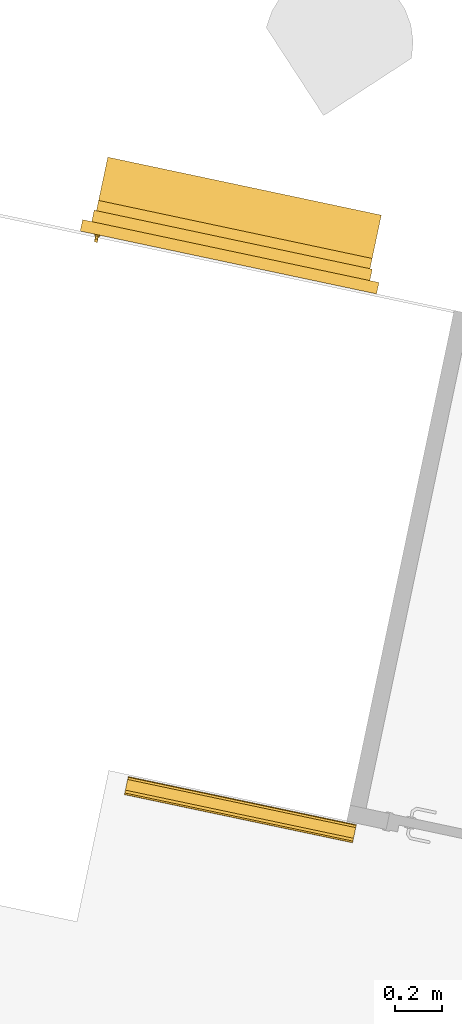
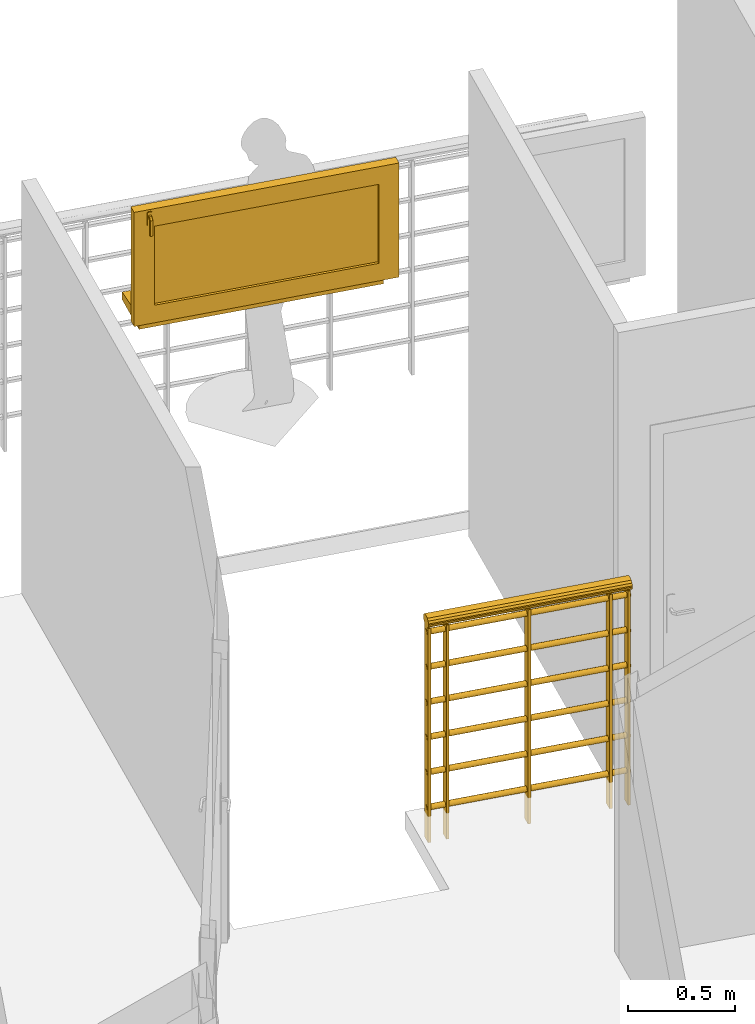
# One storey, part 13 of 18: 1 railing, 1 window.
"""IFC2X3 building model written with IfcOpenShell, lengths in metres."""

from ifc_helpers import new_model, entity, si_unit, converted_unit, derived_unit, direction, frame, frame_2d, origin, origin_2d_with_axis, place, context, subcontext, project, spatial, polyline, rectangle, circle, outline, extrude, faceted_brep, source, transform, mapped, material, material_list, type_object, type_shapes, element, save


model = new_model("IFC2X3")

# Units and contexts
model_context = context("Model", 3, precision=1e-05, world=origin(), true_north=direction((6.12303176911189e-17, 1.0)))
body_context = subcontext(model_context, "Body", "Model", "MODEL_VIEW")
ifc_project = project(units=[si_unit("LENGTHUNIT", "METRE"), si_unit("AREAUNIT", "SQUARE_METRE"), si_unit("VOLUMEUNIT", "CUBIC_METRE"), converted_unit("PLANEANGLEUNIT", "DEGREE", entity("IfcRatioMeasure", 0.0174532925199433), si_unit("PLANEANGLEUNIT", "RADIAN"), dimensions=[0, 0, 0, 0, 0, 0, 0]), si_unit("MASSUNIT", "GRAM", prefix="KILO"), derived_unit("MASSDENSITYUNIT", [(si_unit("MASSUNIT", "GRAM", prefix="KILO"), 1), (si_unit("LENGTHUNIT", "METRE"), -3)]), si_unit("TIMEUNIT", "SECOND"), si_unit("FREQUENCYUNIT", "HERTZ"), si_unit("THERMODYNAMICTEMPERATUREUNIT", "DEGREE_CELSIUS"), derived_unit("THERMALTRANSMITTANCEUNIT", [(si_unit("MASSUNIT", "GRAM", prefix="KILO"), 1), (si_unit("THERMODYNAMICTEMPERATUREUNIT", "KELVIN"), -1), (si_unit("TIMEUNIT", "SECOND"), -3)]), derived_unit("VOLUMETRICFLOWRATEUNIT", [(si_unit("LENGTHUNIT", "METRE"), 3), (si_unit("TIMEUNIT", "SECOND"), -1)]), si_unit("ELECTRICCURRENTUNIT", "AMPERE"), si_unit("ELECTRICVOLTAGEUNIT", "VOLT"), si_unit("POWERUNIT", "WATT"), si_unit("FORCEUNIT", "NEWTON", prefix="KILO"), si_unit("ILLUMINANCEUNIT", "LUX"), si_unit("LUMINOUSFLUXUNIT", "LUMEN"), si_unit("LUMINOUSINTENSITYUNIT", "CANDELA"), derived_unit("USERDEFINED", [(si_unit("MASSUNIT", "GRAM", prefix="KILO"), -1), (si_unit("LENGTHUNIT", "METRE"), -2), (si_unit("TIMEUNIT", "SECOND"), 3), (si_unit("LUMINOUSFLUXUNIT", "LUMEN"), 1)]), derived_unit("LINEARVELOCITYUNIT", [(si_unit("LENGTHUNIT", "METRE"), 1), (si_unit("TIMEUNIT", "SECOND"), -1)]), si_unit("PRESSUREUNIT", "PASCAL"), derived_unit("USERDEFINED", [(si_unit("LENGTHUNIT", "METRE"), -2), (si_unit("MASSUNIT", "GRAM", prefix="KILO"), 1), (si_unit("TIMEUNIT", "SECOND"), -2)])], contexts=[model_context])

# Site, building, storey
site_placement = place(None, origin())
site = spatial("IfcSite", under=ifc_project, at=site_placement, Name="Default", CompositionType="ELEMENT")
building_placement = place(site_placement, origin())
building = spatial("IfcBuilding", under=site, at=building_placement, CompositionType="ELEMENT")
storey_placement = place(building_placement, frame((0.0, 0.0, 2.8)))
storey = spatial("IfcBuildingStorey", under=building, at=storey_placement, Name="ETAGE", CompositionType="ELEMENT", Elevation=2.8)

# Window
ifc_material_1 = material(Name="Fenêtre - Poignée")
ifc_material_2 = material(Name="Fenêtre - Appui")
ifc_material_3 = material(Name="PVC - Blanc")
ifc_material_4 = material(Name="Fenêtre - Cadre")
ifc_material_5 = material(Name="Fenêtre - Vitrage")
ifc_material_list_1 = material_list([ifc_material_1, ifc_material_2, ifc_material_3, ifc_material_4, ifc_material_5])
ifc_material_list_2 = material_list([ifc_material_1, ifc_material_2, ifc_material_3, ifc_material_4, ifc_material_5])
window_style = type_object("IfcWindowStyle", Name="1.20 X 0.60 HT Appui Béton 3", ConstructionType="NOTDEFINED", OperationType="SINGLE_PANEL", ParameterTakesPrecedence=False, Sizeable=False, material=ifc_material_list_2)
shared_shape = source(origin(), body_context, "Body", "Brep", [
    faceted_brep([(0.0806460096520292, 0.333999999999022, 0.702033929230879), (0.0820339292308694, 0.333999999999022, 0.700646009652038), (0.0820339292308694, 0.333999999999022, 0.689332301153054), (0.0806676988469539, 0.333999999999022, 0.687966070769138), (0.0693323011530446, 0.333999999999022, 0.687966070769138), (0.067966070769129, 0.333999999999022, 0.689332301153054), (0.067966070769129, 0.333999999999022, 0.700646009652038), (0.069353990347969, 0.333999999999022, 0.702033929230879), (0.0806460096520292, 0.321086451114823, 0.702033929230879), (0.0820339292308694, 0.321661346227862, 0.700646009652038), (0.0820339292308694, 0.308353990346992, 0.687338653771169), (0.0820339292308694, 0.308353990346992, 0.600000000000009), (0.0820339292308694, 0.319667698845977, 0.600000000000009), (0.0820339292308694, 0.319667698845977, 0.682652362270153), (0.0820339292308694, 0.326347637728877, 0.689332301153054), (0.0806676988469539, 0.326913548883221, 0.687966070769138), (0.0693323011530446, 0.326913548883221, 0.687966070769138), (0.067966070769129, 0.326347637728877, 0.689332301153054), (0.067966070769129, 0.319667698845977, 0.682652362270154), (0.067966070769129, 0.319667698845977, 0.600000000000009), (0.067966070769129, 0.308353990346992, 0.600000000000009), (0.067966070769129, 0.308353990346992, 0.687338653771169), (0.067966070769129, 0.321661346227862, 0.700646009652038), (0.069353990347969, 0.321086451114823, 0.702033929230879), (0.0806460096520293, 0.306966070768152, 0.687913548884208), (0.0806676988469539, 0.321033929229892, 0.68208645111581), (0.0693323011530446, 0.321033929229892, 0.68208645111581), (0.069353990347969, 0.306966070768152, 0.687913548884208), (0.0806460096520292, 0.306966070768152, 0.600000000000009), (0.069353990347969, 0.306966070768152, 0.600000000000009), (0.0693323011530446, 0.321033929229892, 0.600000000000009), (0.0806676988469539, 0.321033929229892, 0.600000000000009)], [[[0, 1, 2, 3, 4, 5, 6, 7]], [[1, 0, 8, 9]], [[2, 1, 9, 10, 11, 12, 13, 14]], [[3, 2, 14, 15]], [[4, 3, 15, 16]], [[5, 4, 16, 17]], [[6, 5, 17, 18, 19, 20, 21, 22]], [[7, 6, 22, 23]], [[0, 7, 23, 8]], [[9, 8, 24, 10]], [[15, 14, 13, 25]], [[16, 15, 25, 26]], [[17, 16, 26, 18]], [[23, 22, 21, 27]], [[8, 23, 27, 24]], [[28, 29, 20, 19, 30, 31, 12, 11]], [[10, 24, 28, 11]], [[25, 13, 12, 31]], [[26, 25, 31, 30]], [[18, 26, 30, 19]], [[27, 21, 20, 29]], [[24, 27, 29, 28]]]),
    faceted_brep([(0.0820000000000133, 0.334000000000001, 0.720000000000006), (0.0679999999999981, 0.334000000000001, 0.720000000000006), (0.0629999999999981, 0.334000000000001, 0.715000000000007), (0.0629999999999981, 0.334000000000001, 0.644999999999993), (0.0679999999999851, 0.334000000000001, 0.640000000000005), (0.0820000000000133, 0.334000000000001, 0.640000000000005), (0.0869999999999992, 0.334000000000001, 0.644999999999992), (0.0869999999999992, 0.334000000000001, 0.715000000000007), (0.0820000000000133, 0.340000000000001, 0.720000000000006), (0.0869999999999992, 0.340000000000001, 0.715000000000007), (0.0869999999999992, 0.340000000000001, 0.644999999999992), (0.0820000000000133, 0.340000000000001, 0.640000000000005), (0.0679999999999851, 0.340000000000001, 0.640000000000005), (0.0629999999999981, 0.340000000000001, 0.644999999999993), (0.0629999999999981, 0.340000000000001, 0.715000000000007), (0.0679999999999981, 0.340000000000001, 0.720000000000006)], [[[0, 1, 2, 3, 4, 5, 6, 7]], [[8, 9, 10, 11, 12, 13, 14, 15]], [[1, 0, 8, 15]], [[2, 1, 15, 14]], [[3, 2, 14, 13]], [[4, 3, 13, 12]], [[5, 4, 12, 11]], [[6, 5, 11, 10]], [[7, 6, 10, 9]], [[0, 7, 9, 8]]]),
    faceted_brep([(0.0499999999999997, 0.420000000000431, 0.0799999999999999), (0.0499999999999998, 0.470000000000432, 0.0799999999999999), (0.0499999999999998, 0.470000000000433, 0.0650000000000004), (0.0500000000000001, 0.675000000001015, 0.0434536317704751), (0.0500000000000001, 0.675000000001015, 0.0), (0.0499999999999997, 0.420000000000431, 0.0), (1.25, 0.42000000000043, 0.0799999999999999), (1.25, 0.42000000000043, 0.0), (1.25, 0.675000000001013, 0.0), (1.25, 0.675000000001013, 0.0434536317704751), (1.25, 0.470000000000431, 0.0650000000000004), (1.25, 0.47000000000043, 0.0799999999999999)], [[[0, 1, 2, 3, 4, 5]], [[6, 7, 8, 9, 10, 11]], [[1, 0, 6, 11]], [[2, 1, 11, 10]], [[3, 2, 10, 9]], [[4, 3, 9, 8]], [[5, 4, 8, 7]], [[0, 5, 7, 6]]]),
    faceted_brep([(0.0999999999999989, 0.379999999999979, 0.18), (0.0999999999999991, 0.339999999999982, 0.18), (1.2, 0.339999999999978, 0.18), (1.2, 0.379999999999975, 0.18), (0.0499999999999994, 0.339999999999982, 0.13), (0.0499999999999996, 0.379999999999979, 0.13), (1.25, 0.379999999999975, 0.13), (1.25, 0.339999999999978, 0.13), (1.2, 0.339999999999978, 0.629999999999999), (1.2, 0.379999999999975, 0.63), (1.25, 0.379999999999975, 0.679999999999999), (1.25, 0.339999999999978, 0.679999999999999), (0.0999999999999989, 0.339999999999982, 0.629999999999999), (0.0999999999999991, 0.379999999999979, 0.629999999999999), (0.0499999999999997, 0.379999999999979, 0.679999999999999), (0.0499999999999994, 0.339999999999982, 0.679999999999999)], [[[0, 1, 2, 3]], [[4, 5, 6, 7]], [[3, 2, 8, 9]], [[7, 6, 10, 11]], [[9, 8, 12, 13]], [[11, 10, 14, 15]], [[13, 12, 1, 0]], [[3, 9, 13, 0], [5, 14, 10, 6]], [[15, 14, 5, 4]], [[7, 11, 15, 4], [1, 12, 8, 2]]], outer=[[True], [True], [True], [True], [True], [True], [True], [False, True], [True], [True, False]]),
    faceted_brep([(0.0, 0.340000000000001, 0.0799999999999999), (0.0, 0.39, 0.0799999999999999), (0.0499999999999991, 0.39, 0.0799999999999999), (0.0499999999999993, 0.474999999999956, 0.0799999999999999), (1.25, 0.474999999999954, 0.0800000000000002), (1.25, 0.39, 0.0799999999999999), (1.3, 0.39, 0.0799999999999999), (1.3, 0.340000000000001, 0.0799999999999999), (0.0649999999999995, 0.39, 0.664999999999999), (0.0649999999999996, 0.39, 0.145), (1.235, 0.39, 0.145), (1.235, 0.39, 0.664999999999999), (0.0, 0.39, 0.729999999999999), (1.3, 0.39, 0.729999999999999), (1.25, 0.39, 0.119376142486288), (0.0499999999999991, 0.39, 0.119376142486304), (0.0649999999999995, 0.38, 0.664999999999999), (0.0649999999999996, 0.38, 0.145), (1.25, 0.38, 0.679999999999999), (0.0499999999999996, 0.38, 0.679999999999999), (0.0499999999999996, 0.38, 0.13), (1.25, 0.38, 0.13), (1.235, 0.38, 0.664999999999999), (1.235, 0.38, 0.145), (0.0499999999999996, 0.340000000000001, 0.679999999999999), (0.0499999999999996, 0.340000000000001, 0.13), (1.3, 0.340000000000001, 0.729999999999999), (0.0, 0.340000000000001, 0.729999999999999), (1.25, 0.340000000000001, 0.679999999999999), (1.25, 0.34, 0.13), (0.0499999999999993, 0.484999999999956, 0.0939209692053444), (0.0499999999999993, 0.484999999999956, 0.0749999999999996), (0.0499999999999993, 0.474999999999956, 0.0749999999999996), (1.25, 0.474999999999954, 0.0749999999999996), (1.25, 0.484999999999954, 0.0749999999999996), (1.25, 0.484999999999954, 0.0939209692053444)], [[[0, 1, 2, 3, 4, 5, 6, 7]], [[8, 9, 10, 11], [1, 12, 13, 6, 5, 14, 15, 2]], [[8, 16, 17, 9]], [[18, 19, 20, 21], [16, 22, 23, 17]], [[20, 19, 24, 25]], [[0, 7, 26, 27], [28, 29, 25, 24]], [[1, 0, 27, 12]], [[8, 11, 22, 16]], [[19, 18, 28, 24]], [[13, 12, 27, 26]], [[22, 11, 10, 23]], [[28, 18, 21, 29]], [[6, 13, 26, 7]], [[15, 30, 31, 32, 3, 2]], [[4, 33, 34, 35, 14, 5]], [[25, 29, 21, 20]], [[17, 23, 10, 9]], [[30, 15, 14, 35]], [[31, 30, 35, 34]], [[32, 31, 34, 33]], [[3, 32, 33, 4]]], outer=[[True], [False, True], [True], [True, False], [True], [True, False], [True], [True], [True], [True], [True], [True], [True], [True], [True], [True], [True], [True], [True], [True], [True]]),
    faceted_brep([(0.0499999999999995, 0.440000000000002, 0.0799999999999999), (0.0499999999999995, 0.39, 0.0799999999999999), (0.039999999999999, 0.39, 0.0799999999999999), (0.039999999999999, 0.440000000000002, 0.0799999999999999), (0.0499999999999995, 0.440000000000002, 0.679999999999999), (0.0499999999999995, 0.39, 0.679999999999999), (1.25, 0.39, 0.679999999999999), (1.25, 0.39, 0.0800000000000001), (1.26, 0.39, 0.0799999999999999), (1.26, 0.39, 0.69), (0.039999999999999, 0.39, 0.69), (0.039999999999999, 0.440000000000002, 0.69), (1.26, 0.440000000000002, 0.69), (1.26, 0.440000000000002, 0.0800000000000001), (1.25, 0.440000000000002, 0.0799999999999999), (1.25, 0.440000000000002, 0.679999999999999)], [[[0, 1, 2, 3]], [[1, 0, 4, 5]], [[2, 1, 5, 6, 7, 8, 9, 10]], [[3, 2, 10, 11]], [[0, 3, 11, 12, 13, 14, 15, 4]], [[5, 4, 15, 6]], [[11, 10, 9, 12]], [[14, 13, 8, 7]], [[6, 15, 14, 7]], [[12, 9, 8, 13]]]),
    faceted_brep([(0.099999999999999, 0.365999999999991, 0.18), (0.099999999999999, 0.365999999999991, 0.629999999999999), (1.2, 0.365999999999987, 0.629999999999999), (1.2, 0.365999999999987, 0.18), (0.0999999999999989, 0.353999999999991, 0.18), (1.2, 0.353999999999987, 0.18), (1.2, 0.353999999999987, 0.629999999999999), (0.0999999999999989, 0.353999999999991, 0.629999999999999)], [[[0, 1, 2, 3]], [[4, 5, 6, 7]], [[1, 0, 4, 7]], [[2, 1, 7, 6]], [[3, 2, 6, 5]], [[0, 3, 5, 4]]]),
])
type_shapes(window_style, [shared_shape])
window_placement = place(storey_placement, frame((-13.317930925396, 85.2299180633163, 1.47), z_axis=(0.0, 0.0, 1.0), x_axis=(0.978238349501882, -0.207484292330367, 0.0)))
element("IfcWindow", 1, at=window_placement, inside=storey, type_object=window_style, material=ifc_material_list_1, Name="1 Vantail - Droit:1.20 X 0.60 HT Appui Béton 3", ObjectType="1 Vantail - Droit:1.20 X 0.60 HT Appui Béton 3", OverallHeight=1.08, OverallWidth=1.3, context=body_context, shape_type="MappedRepresentation", body=[
    mapped(shared_shape, transform((0.0, 0.0, 0.0), scale=1.0)),
])

# Railing
ifc_material_6 = material(Name="noir acier")
ifc_material_7 = material(Name="Finition Peinture Grise")
ifc_material_list_3 = material_list([ifc_material_6, ifc_material_7])
railing_placement = place(storey_placement, origin())
element("IfcRailing", 2, at=railing_placement, inside=storey, material=ifc_material_list_3, Name="Garde-corps:Type Bateau 1,25 m", ObjectType="Garde-corps:Type Bateau 1,25 m", PredefinedType="NOTDEFINED", context=body_context, shape_type="SweptSolid", body=[
    extrude(rectangle(XDim=0.0500000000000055, YDim=0.0140000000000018, at=frame_2d((4.47558656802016e-16, -2.11939840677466e-15), x_axis=(1.0, 0.0))), frame((-12.9523089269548, 83.1626271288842, 0.0), z_axis=(0.0, 0.0, 1.0), x_axis=(-0.206544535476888, -0.978437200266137, 0.0)), (0.0, 0.0, 1.0), 1.21984653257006),
    extrude(rectangle(XDim=0.0500000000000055, YDim=0.0140000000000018, at=origin_2d_with_axis()), frame((-12.5609340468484, 83.0800093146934, 0.0), z_axis=(0.0, 0.0, 1.0), x_axis=(-0.206544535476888, -0.978437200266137, 0.0)), (0.0, 0.0, 1.0), 1.21984653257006),
    extrude(rectangle(XDim=0.0500000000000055, YDim=0.0140000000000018, at=origin_2d_with_axis()), frame((-12.1695591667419, 82.9973915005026, 0.0), z_axis=(0.0, 0.0, 1.0), x_axis=(-0.206544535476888, -0.978437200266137, 0.0)), (0.0, 0.0, 1.0), 1.21984653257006),
    extrude(rectangle(XDim=0.0500000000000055, YDim=0.0140000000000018, at=frame_2d((4.47558656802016e-16, -2.11939840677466e-15), x_axis=(1.0, 0.0))), frame((-13.0407737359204, 83.1813017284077, 0.0), z_axis=(0.0, 0.0, 1.0), x_axis=(-0.206544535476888, -0.978437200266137, 0.0)), (0.0, 0.0, 1.0), 1.21984653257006),
    extrude(rectangle(XDim=0.0500000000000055, YDim=0.0140000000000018, at=origin_2d_with_axis()), frame((-12.0810943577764, 82.9787169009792, 0.0), z_axis=(0.0, 0.0, 1.0), x_axis=(-0.206544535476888, -0.978437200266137, 0.0)), (0.0, 0.0, 1.0), 1.21984653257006),
    extrude(outline(polyline([(-0.0109067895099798, -0.0384843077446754), (0.00177588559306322, -0.0384843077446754), (0.0141514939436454, -0.0318300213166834), (0.0240801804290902, -0.0196720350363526), (0.0298451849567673, -0.00411257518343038), (0.0304496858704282, 0.0121579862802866), (0.0257891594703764, 0.0263263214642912), (0.0166694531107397, 0.0359425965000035), (0.0109067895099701, 0.0384843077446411), (-0.00177588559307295, 0.0384843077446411), (-0.0141514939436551, 0.0318300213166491), (-0.0240801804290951, 0.0196720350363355), (-0.0298451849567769, 0.00411257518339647), (-0.0304496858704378, -0.0121579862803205), (-0.025789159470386, -0.0263263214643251), (-0.0166694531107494, -0.0359425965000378), (-0.0109067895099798, -0.0384843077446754)])), frame((-13.0495075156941, 83.1826353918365, 1.25), z_axis=(0.9784372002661, -0.206544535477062, 0.0), x_axis=(0.0563184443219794, 0.266790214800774, -0.962107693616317)), (0.0, 0.0, 1.0), 1.00082879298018),
    extrude(circle(Radius=0.015, at=origin_2d_with_axis()), frame((-13.0495075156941, 83.1826353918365, 1.185), z_axis=(0.978437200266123, -0.206544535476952, 0.0), x_axis=(0.206544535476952, 0.978437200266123, 0.0)), (0.0, 0.0, 1.0), 1.00082879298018),
    extrude(circle(Radius=0.015, at=origin_2d_with_axis()), frame((-13.0495075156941, 83.1826353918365, 0.985), z_axis=(0.978437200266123, -0.206544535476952, 0.0), x_axis=(0.206544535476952, 0.978437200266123, 0.0)), (0.0, 0.0, 1.0), 1.00082879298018),
    extrude(circle(Radius=0.015, at=origin_2d_with_axis()), frame((-13.0495075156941, 83.1826353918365, 0.785), z_axis=(0.978437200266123, -0.206544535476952, 0.0), x_axis=(0.206544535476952, 0.978437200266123, 0.0)), (0.0, 0.0, 1.0), 1.00082879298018),
    extrude(circle(Radius=0.015, at=origin_2d_with_axis()), frame((-13.0495075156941, 83.1826353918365, 0.585), z_axis=(0.978437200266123, -0.206544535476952, 0.0), x_axis=(0.206544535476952, 0.978437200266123, 0.0)), (0.0, 0.0, 1.0), 1.00082879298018),
    extrude(circle(Radius=0.015, at=origin_2d_with_axis()), frame((-13.0495075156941, 83.1826353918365, 0.385), z_axis=(0.978437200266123, -0.206544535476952, 0.0), x_axis=(0.206544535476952, 0.978437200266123, 0.0)), (0.0, 0.0, 1.0), 1.00082879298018),
    extrude(circle(Radius=0.015, at=origin_2d_with_axis()), frame((-13.0495075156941, 83.1826353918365, 0.185), z_axis=(0.978437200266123, -0.206544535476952, 0.0), x_axis=(0.206544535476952, 0.978437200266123, 0.0)), (0.0, 0.0, 1.0), 1.00082879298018),
])

save(model, "model.ifc")
